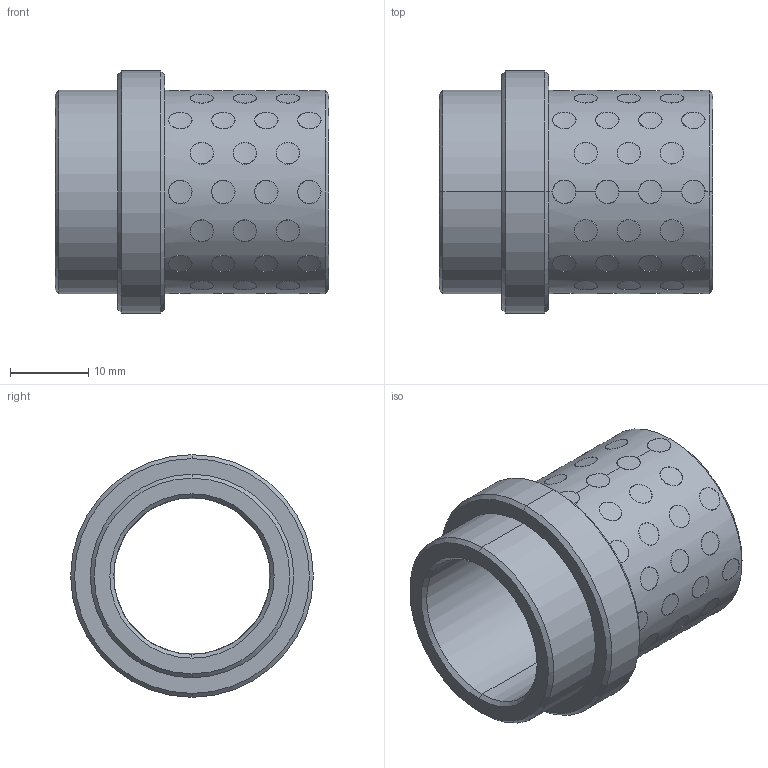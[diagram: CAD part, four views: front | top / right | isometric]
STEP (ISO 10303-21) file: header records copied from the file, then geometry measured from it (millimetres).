
FILE_DESCRIPTION((''),'2;1');
FILE_NAME('G31220027','2017-12-30T',('MANU'),(''),'PRO/ENGINEER BY PARAMETRIC TECHNOLOGY CORPORATION, 2012130','PRO/ENGINEER BY PARAMETRIC TECHNOLOGY CORPORATION, 2012130','');
FILE_SCHEMA(('CONFIG_CONTROL_DESIGN'));
Length unit declared in the file: millimetre
Products named in the file (1): G31220027
Bounding box: 35 x 31 x 31 mm (x, y, z)
Volume: 8830.3 mm3; surface area: 9018.6 mm2
Topology: 57 solids, 57 shells, 360 faces, 768 edges, 508 vertices
Faces by surface type: cylinder 344, cone 12, plane 4
Entity records: 16162 total; most frequent: CARTESIAN_POINT 9100, ORIENTED_EDGE 1536, DIRECTION 1036, EDGE_CURVE 768, VERTEX_POINT 508, B_SPLINE_CURVE_WITH_KNOTS 480, EDGE_LOOP 460, AXIS2_PLACEMENT_3D 388
